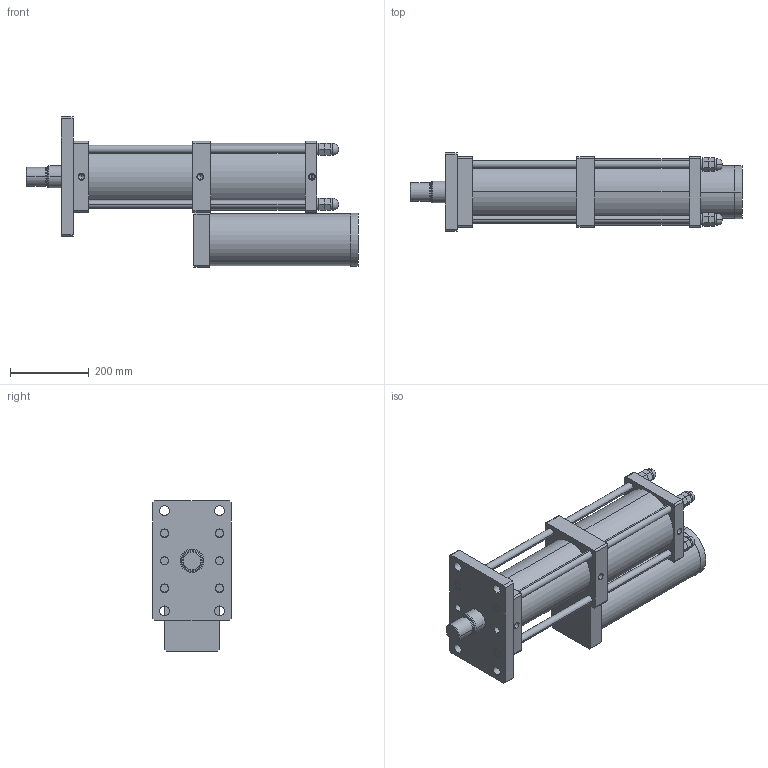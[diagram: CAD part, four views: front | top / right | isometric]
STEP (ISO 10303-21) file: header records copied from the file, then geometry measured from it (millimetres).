
FILE_DESCRIPTION (( 'STEP AP203' ), '1' );
FILE_NAME ('CPT-125-200-10-20T.STEP', '2016-03-12T02:03:10', ( 'WIN' ), ( '' ), 'SwSTEP 2.0', 'SolidWorks 2014', '' );
FILE_SCHEMA (( 'CONFIG_CONTROL_DESIGN' ));
Length unit declared in the file: millimetre
Products named in the file (1): CPT-125-200-10-20T
Bounding box: 845.5 x 200 x 382.5 mm (x, y, z)
Volume: 17786124.2 mm3; surface area: 1322666.6 mm2
Topology: 17 solids, 17 shells, 321 faces, 732 edges, 458 vertices
Faces by surface type: plane 155, cylinder 124, cone 30, sphere 8, torus 4
Entity records: 8969 total; most frequent: DIRECTION 1654, CARTESIAN_POINT 1480, ORIENTED_EDGE 1416, EDGE_CURVE 708, AXIS2_PLACEMENT_3D 624, VERTEX_POINT 450, LINE 406, VECTOR 406
